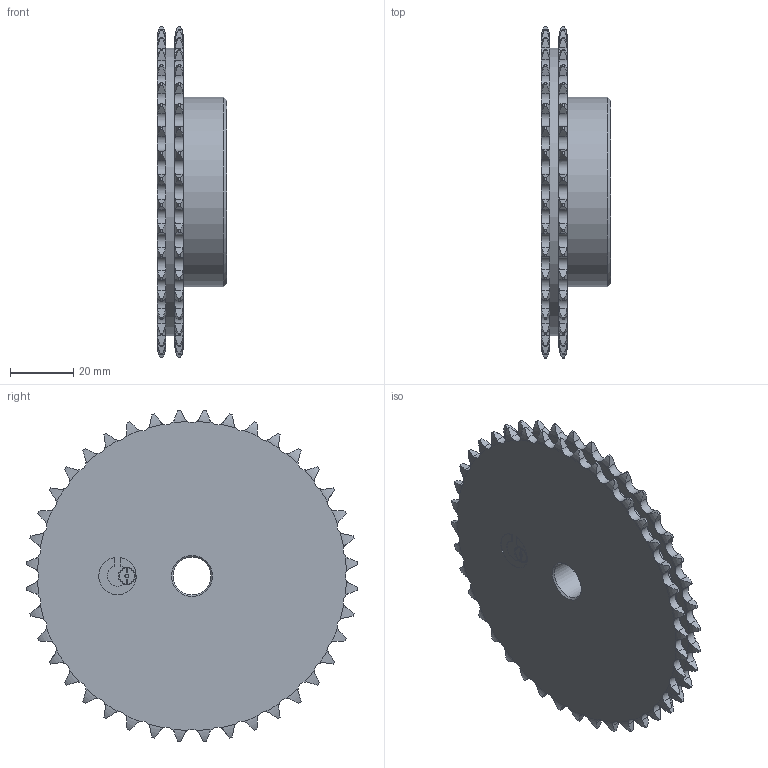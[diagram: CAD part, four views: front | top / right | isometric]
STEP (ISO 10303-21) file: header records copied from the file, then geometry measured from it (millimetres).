
FILE_DESCRIPTION(/* description */ (''),/* implementation_level */ '2;1');
FILE_NAME(/* name */ 'W:\DISEGNI LUCA SALVATAGGIO LOCALE\disegni Fabio Colombo\DISEGNI CATALOGO PIGNONI\PIGNONI ISO606\04- DIN8187 8x3\DIN8187 8x3 -3D - DOPPIO\10208040.stp',/* time_stamp */ '2023-01-11T15:28:26+01:00',/* author */ ('luca.leone'),/* organization */ (''),/* preprocessor_version */ 'ST-DEVELOPER v18.1',/* originating_system */ 'Autodesk Inventor 2022',/* authorisation */ '');
FILE_SCHEMA (('AUTOMOTIVE_DESIGN { 1 0 10303 214 3 1 1 }'));
Length unit declared in the file: millimetre
Products named in the file (1): 10208040
Bounding box: 22 x 105.04 x 105.04 mm (x, y, z)
Volume: 97151.9 mm3; surface area: 24529.1 mm2
Topology: 1 solids, 1 shells, 583 faces, 1720 edges, 1145 vertices
Faces by surface type: cylinder 365, torus 160, plane 55, cone 3
Full cylindrical faces by diameter (mm): 0.977 x1, 12 x1, 60 x1, 91 x1
Entity records: 21330 total; most frequent: CARTESIAN_POINT 6425, ORIENTED_EDGE 3440, DIRECTION 2821, EDGE_CURVE 1720, AXIS2_PLACEMENT_3D 1157, VERTEX_POINT 1145, B_SPLINE_CURVE_WITH_KNOTS 640, EDGE_LOOP 591
